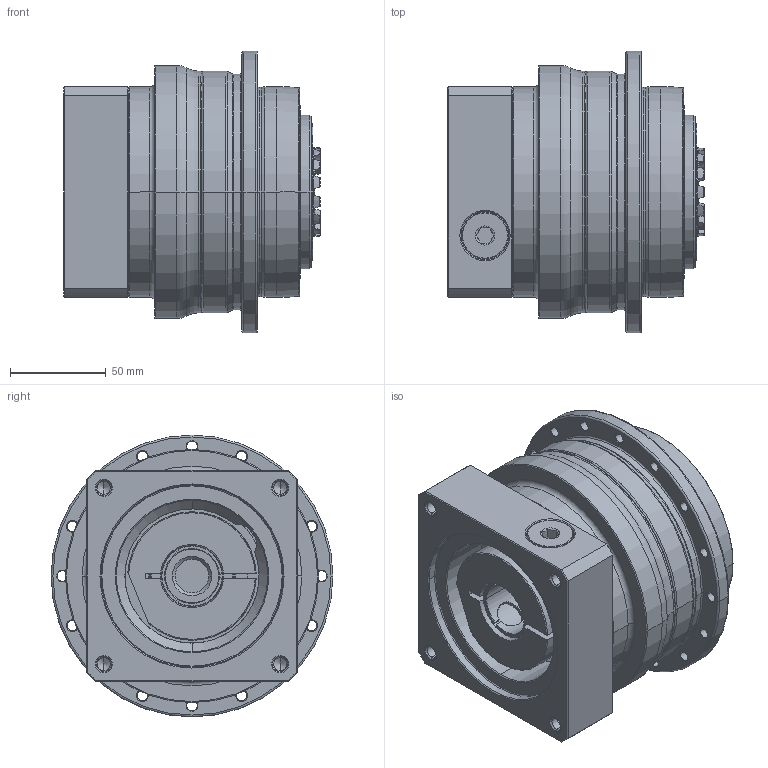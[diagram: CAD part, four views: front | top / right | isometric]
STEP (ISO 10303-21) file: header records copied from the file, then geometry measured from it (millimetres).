
FILE_DESCRIPTION((''),'2;1');
FILE_NAME('APC110_1ST_28-P0409610201_ASM','2018-06-08T',('d01226'),(''),'PRO/ENGINEER BY PARAMETRIC TECHNOLOGY CORPORATION, 2008410','PRO/ENGINEER BY PARAMETRIC TECHNOLOGY CORPORATION, 2008410','');
FILE_SCHEMA(('CONFIG_CONTROL_DESIGN'));
Length unit declared in the file: millimetre
Products named in the file (9): P0278400003; P03594C0103; P1318410201; P0503600010; P0912452001; P1211400001; P0409610201; 21711418017; APC110_1ST_28-P0409610201_ASM
Assembly tree (8 placements, depth 2):
  APC110_1ST_28-P0409610201_ASM
    P0278400003
    P03594C0103
    P1318410201
    P0503600010
    P0912452001
    P1211400001
    P0409610201
    21711418017
Bounding box: 133.9 x 147 x 147 mm (x, y, z)
Volume: 1379611.4 mm3; surface area: 232365.3 mm2
Topology: 9 solids, 20 shells, 616 faces, 1481 edges, 905 vertices
Faces by surface type: cylinder 195, cone 189, plane 119, torus 99, bspline 14
Entity records: 23327 total; most frequent: CARTESIAN_POINT 8624, DIRECTION 3281, ORIENTED_EDGE 2884, EDGE_CURVE 1463, AXIS2_PLACEMENT_3D 1426, VERTEX_POINT 905, CIRCLE 797, EDGE_LOOP 702
